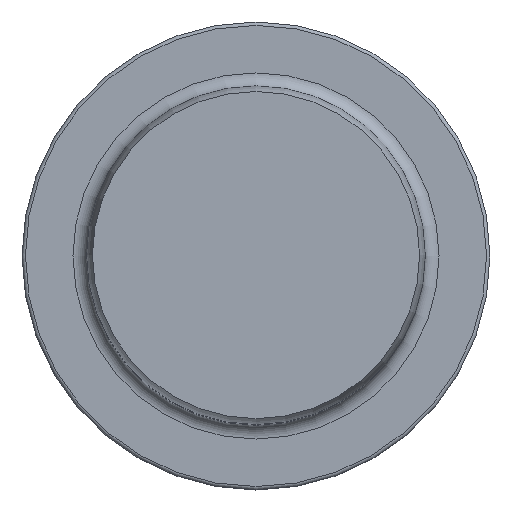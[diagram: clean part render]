
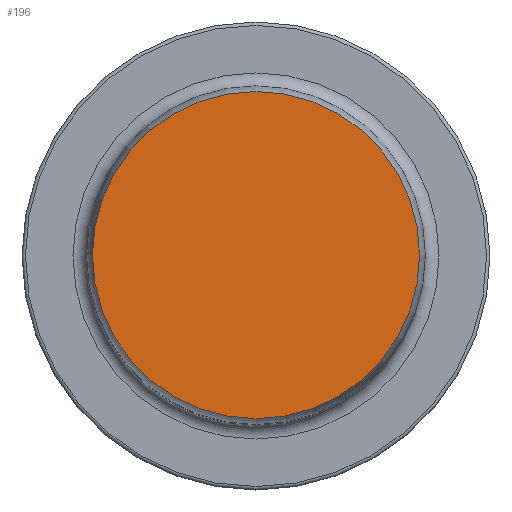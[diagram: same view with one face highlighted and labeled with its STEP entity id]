
A CAD part, top view. The second image highlights one B-rep face of the part: STEP entity #196.
In plain terms, the highlighted planar face has unit normal (0, 0, 1).
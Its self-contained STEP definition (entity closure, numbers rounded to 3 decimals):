
#20=PLANE('',#249);
#39=FACE_OUTER_BOUND('',#54,.T.);
#54=EDGE_LOOP('',(#164));
#75=CIRCLE('',#250,2.377);
#95=VERTEX_POINT('',#382);
#119=EDGE_CURVE('',#95,#95,#75,.T.);
#164=ORIENTED_EDGE('',*,*,#119,.F.);
#196=ADVANCED_FACE('',(#39),#20,.T.);
#249=AXIS2_PLACEMENT_3D('',#381,#316,#317);
#250=AXIS2_PLACEMENT_3D('',#383,#318,#319);
#316=DIRECTION('center_axis',(0.,0.,1.));
#317=DIRECTION('ref_axis',(1.,0.,0.));
#318=DIRECTION('center_axis',(0.,0.,-1.));
#319=DIRECTION('ref_axis',(1.,0.,0.));
#381=CARTESIAN_POINT('Origin',(0.,2.377,0.));
#382=CARTESIAN_POINT('',(2.377,0.,0.));
#383=CARTESIAN_POINT('Origin',(0.,0.,0.));
